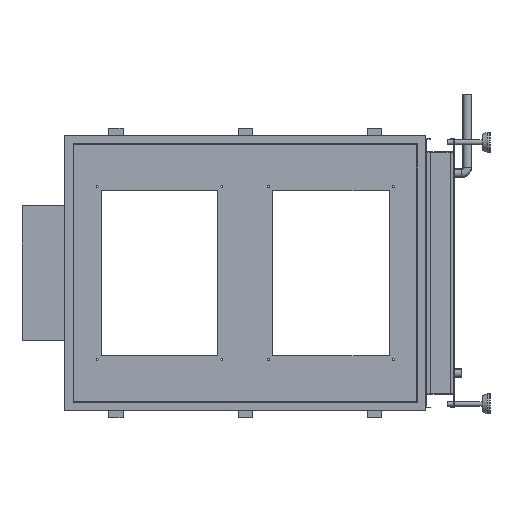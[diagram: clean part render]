
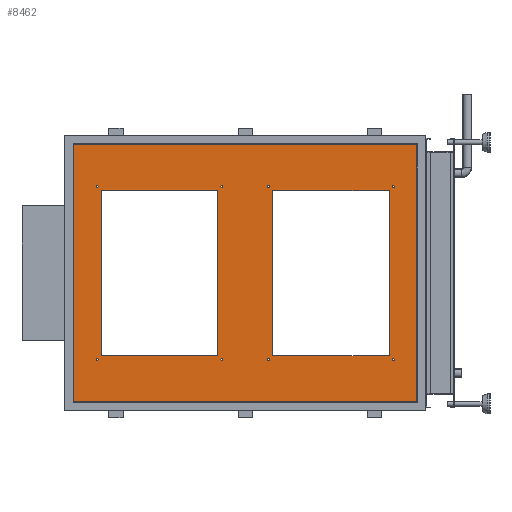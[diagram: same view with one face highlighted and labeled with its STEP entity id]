
A CAD part, left-side view. The second image highlights one B-rep face of the part: STEP entity #8462.
In plain terms, the highlighted planar face has unit normal (-1, 0, 0).
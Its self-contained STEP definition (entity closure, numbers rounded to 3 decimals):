
#151=FACE_BOUND('',#1491,.T.);
#152=FACE_BOUND('',#1492,.T.);
#153=FACE_BOUND('',#1493,.T.);
#154=FACE_BOUND('',#1494,.T.);
#155=FACE_BOUND('',#1495,.T.);
#156=FACE_BOUND('',#1496,.T.);
#157=FACE_BOUND('',#1497,.T.);
#158=FACE_BOUND('',#1498,.T.);
#159=FACE_BOUND('',#1499,.T.);
#160=FACE_BOUND('',#1500,.T.);
#404=PLANE('',#9285);
#923=FACE_OUTER_BOUND('',#1490,.T.);
#1490=EDGE_LOOP('',(#7381,#7382,#7383,#7384));
#1491=EDGE_LOOP('',(#7385));
#1492=EDGE_LOOP('',(#7386));
#1493=EDGE_LOOP('',(#7387));
#1494=EDGE_LOOP('',(#7388));
#1495=EDGE_LOOP('',(#7389));
#1496=EDGE_LOOP('',(#7390));
#1497=EDGE_LOOP('',(#7391));
#1498=EDGE_LOOP('',(#7392));
#1499=EDGE_LOOP('',(#7393,#7394,#7395,#7396));
#1500=EDGE_LOOP('',(#7397,#7398,#7399,#7400));
#2081=LINE('',#13354,#2971);
#2091=LINE('',#13374,#2981);
#2096=LINE('',#13383,#2986);
#2099=LINE('',#13388,#2989);
#2105=LINE('',#13402,#2995);
#2115=LINE('',#13422,#3005);
#2120=LINE('',#13431,#3010);
#2123=LINE('',#13436,#3013);
#2256=LINE('',#13699,#3146);
#2257=LINE('',#13701,#3147);
#2258=LINE('',#13703,#3148);
#2259=LINE('',#13704,#3149);
#2971=VECTOR('',#10988,10.);
#2981=VECTOR('',#11004,10.);
#2986=VECTOR('',#11013,10.);
#2989=VECTOR('',#11018,10.);
#2995=VECTOR('',#11028,10.);
#3005=VECTOR('',#11044,10.);
#3010=VECTOR('',#11053,10.);
#3013=VECTOR('',#11058,10.);
#3146=VECTOR('',#11287,10.);
#3147=VECTOR('',#11288,10.);
#3148=VECTOR('',#11289,10.);
#3149=VECTOR('',#11290,10.);
#3492=CIRCLE('',#8736,3.324);
#3497=CIRCLE('',#8743,3.324);
#3502=CIRCLE('',#8750,3.324);
#3507=CIRCLE('',#8757,3.324);
#3512=CIRCLE('',#8764,3.324);
#3517=CIRCLE('',#8771,3.324);
#3522=CIRCLE('',#8778,3.324);
#3527=CIRCLE('',#8785,3.324);
#3780=VERTEX_POINT('',#12035);
#3785=VERTEX_POINT('',#12049);
#3790=VERTEX_POINT('',#12063);
#3795=VERTEX_POINT('',#12077);
#3800=VERTEX_POINT('',#12091);
#3805=VERTEX_POINT('',#12105);
#3810=VERTEX_POINT('',#12119);
#3815=VERTEX_POINT('',#12133);
#4213=VERTEX_POINT('',#13352);
#4214=VERTEX_POINT('',#13353);
#4221=VERTEX_POINT('',#13373);
#4223=VERTEX_POINT('',#13382);
#4229=VERTEX_POINT('',#13400);
#4230=VERTEX_POINT('',#13401);
#4237=VERTEX_POINT('',#13421);
#4239=VERTEX_POINT('',#13430);
#4321=VERTEX_POINT('',#13697);
#4322=VERTEX_POINT('',#13698);
#4323=VERTEX_POINT('',#13700);
#4324=VERTEX_POINT('',#13702);
#4591=EDGE_CURVE('',#3780,#3780,#3492,.T.);
#4598=EDGE_CURVE('',#3785,#3785,#3497,.T.);
#4605=EDGE_CURVE('',#3790,#3790,#3502,.T.);
#4612=EDGE_CURVE('',#3795,#3795,#3507,.T.);
#4619=EDGE_CURVE('',#3800,#3800,#3512,.T.);
#4626=EDGE_CURVE('',#3805,#3805,#3517,.T.);
#4633=EDGE_CURVE('',#3810,#3810,#3522,.T.);
#4640=EDGE_CURVE('',#3815,#3815,#3527,.T.);
#5226=EDGE_CURVE('',#4213,#4214,#2081,.T.);
#5236=EDGE_CURVE('',#4214,#4221,#2091,.T.);
#5241=EDGE_CURVE('',#4221,#4223,#2096,.T.);
#5244=EDGE_CURVE('',#4223,#4213,#2099,.T.);
#5250=EDGE_CURVE('',#4229,#4230,#2105,.T.);
#5260=EDGE_CURVE('',#4230,#4237,#2115,.T.);
#5265=EDGE_CURVE('',#4237,#4239,#2120,.T.);
#5268=EDGE_CURVE('',#4239,#4229,#2123,.T.);
#5401=EDGE_CURVE('',#4321,#4322,#2256,.T.);
#5402=EDGE_CURVE('',#4323,#4321,#2257,.T.);
#5403=EDGE_CURVE('',#4324,#4323,#2258,.T.);
#5404=EDGE_CURVE('',#4322,#4324,#2259,.T.);
#7381=ORIENTED_EDGE('',*,*,#5401,.F.);
#7382=ORIENTED_EDGE('',*,*,#5402,.F.);
#7383=ORIENTED_EDGE('',*,*,#5403,.F.);
#7384=ORIENTED_EDGE('',*,*,#5404,.F.);
#7385=ORIENTED_EDGE('',*,*,#4591,.T.);
#7386=ORIENTED_EDGE('',*,*,#4598,.T.);
#7387=ORIENTED_EDGE('',*,*,#4605,.T.);
#7388=ORIENTED_EDGE('',*,*,#4612,.T.);
#7389=ORIENTED_EDGE('',*,*,#4619,.T.);
#7390=ORIENTED_EDGE('',*,*,#4626,.T.);
#7391=ORIENTED_EDGE('',*,*,#4633,.T.);
#7392=ORIENTED_EDGE('',*,*,#4640,.T.);
#7393=ORIENTED_EDGE('',*,*,#5241,.T.);
#7394=ORIENTED_EDGE('',*,*,#5244,.T.);
#7395=ORIENTED_EDGE('',*,*,#5226,.T.);
#7396=ORIENTED_EDGE('',*,*,#5236,.T.);
#7397=ORIENTED_EDGE('',*,*,#5265,.T.);
#7398=ORIENTED_EDGE('',*,*,#5268,.T.);
#7399=ORIENTED_EDGE('',*,*,#5250,.T.);
#7400=ORIENTED_EDGE('',*,*,#5260,.T.);
#8462=ADVANCED_FACE('',(#923,#151,#152,#153,#154,#155,#156,#157,#158,#159,
#160),#404,.T.);
#8736=AXIS2_PLACEMENT_3D('',#12037,#9617,#9618);
#8743=AXIS2_PLACEMENT_3D('',#12051,#9633,#9634);
#8750=AXIS2_PLACEMENT_3D('',#12065,#9649,#9650);
#8757=AXIS2_PLACEMENT_3D('',#12079,#9665,#9666);
#8764=AXIS2_PLACEMENT_3D('',#12093,#9681,#9682);
#8771=AXIS2_PLACEMENT_3D('',#12107,#9697,#9698);
#8778=AXIS2_PLACEMENT_3D('',#12121,#9713,#9714);
#8785=AXIS2_PLACEMENT_3D('',#12135,#9729,#9730);
#9285=AXIS2_PLACEMENT_3D('',#13696,#11285,#11286);
#9617=DIRECTION('center_axis',(1.,0.,0.));
#9618=DIRECTION('ref_axis',(0.,0.,-1.));
#9633=DIRECTION('center_axis',(1.,0.,0.));
#9634=DIRECTION('ref_axis',(0.,0.,-1.));
#9649=DIRECTION('center_axis',(1.,0.,0.));
#9650=DIRECTION('ref_axis',(0.,0.,-1.));
#9665=DIRECTION('center_axis',(1.,0.,0.));
#9666=DIRECTION('ref_axis',(0.,0.,-1.));
#9681=DIRECTION('center_axis',(1.,0.,0.));
#9682=DIRECTION('ref_axis',(0.,0.,-1.));
#9697=DIRECTION('center_axis',(1.,0.,0.));
#9698=DIRECTION('ref_axis',(0.,0.,-1.));
#9713=DIRECTION('center_axis',(1.,0.,0.));
#9714=DIRECTION('ref_axis',(0.,0.,-1.));
#9729=DIRECTION('center_axis',(1.,0.,0.));
#9730=DIRECTION('ref_axis',(0.,0.,-1.));
#10988=DIRECTION('',(0.,0.,1.));
#11004=DIRECTION('',(0.,-1.,0.));
#11013=DIRECTION('',(0.,0.,-1.));
#11018=DIRECTION('',(0.,1.,0.));
#11028=DIRECTION('',(0.,1.,0.));
#11044=DIRECTION('',(0.,0.,1.));
#11053=DIRECTION('',(0.,-1.,0.));
#11058=DIRECTION('',(0.,0.,-1.));
#11285=DIRECTION('center_axis',(-1.,0.,0.));
#11286=DIRECTION('ref_axis',(0.,0.,
1.));
#11287=DIRECTION('',(0.,-1.,0.));
#11288=DIRECTION('',(0.,0.,1.));
#11289=DIRECTION('',(0.,1.,0.));
#11290=DIRECTION('',(0.,0.,-1.));
#12035=CARTESIAN_POINT('',(-1485.,520.5,307.324));
#12037=CARTESIAN_POINT('Origin',(-1485.,520.5,304.));
#12049=CARTESIAN_POINT('',(-1485.,82.5,-300.676));
#12051=CARTESIAN_POINT('Origin',(-1485.,82.5,-304.));
#12063=CARTESIAN_POINT('',(-1485.,-81.5,-300.677));
#12065=CARTESIAN_POINT('Origin',(-1485.,-81.5,-304.));
#12077=CARTESIAN_POINT('',(-1485.,-519.5,307.324));
#12079=CARTESIAN_POINT('Origin',(-1485.,-519.5,304.));
#12091=CARTESIAN_POINT('',(-1485.,-81.5,307.324));
#12093=CARTESIAN_POINT('Origin',(-1485.,-81.5,304.));
#12105=CARTESIAN_POINT('',(-1485.,-519.5,-300.677));
#12107=CARTESIAN_POINT('Origin',(-1485.,-519.5,-304.));
#12119=CARTESIAN_POINT('',(-1485.,520.5,-300.676));
#12121=CARTESIAN_POINT('Origin',(-1485.,520.5,-304.));
#12133=CARTESIAN_POINT('',(-1485.,82.5,307.324));
#12135=CARTESIAN_POINT('Origin',(-1485.,82.5,304.));
#13352=CARTESIAN_POINT('',(-1485.,-95.5,-290.));
#13353=CARTESIAN_POINT('',(-1485.,-95.5,290.));
#13354=CARTESIAN_POINT('',(-1485.,-95.5,-145.));
#13373=CARTESIAN_POINT('',(-1485.,-505.5,290.));
#13374=CARTESIAN_POINT('',(-1485.,-365.,290.));
#13382=CARTESIAN_POINT('',(-1485.,-505.5,-290.));
#13383=CARTESIAN_POINT('',(-1485.,-505.5,145.));
#13388=CARTESIAN_POINT('',(-1485.,-467.5,-290.));
#13400=CARTESIAN_POINT('',(-1485.,96.5,-290.));
#13401=CARTESIAN_POINT('',(-1485.,506.5,-290.));
#13402=CARTESIAN_POINT('',(-1485.,-269.,-290.));
#13421=CARTESIAN_POINT('',(-1485.,506.5,290.));
#13422=CARTESIAN_POINT('',(-1485.,506.5,-145.));
#13430=CARTESIAN_POINT('',(-1485.,96.5,290.));
#13431=CARTESIAN_POINT('',(-1485.,-64.,290.));
#13436=CARTESIAN_POINT('',(-1485.,96.5,145.));
#13696=CARTESIAN_POINT('Origin',(-1485.,-634.5,0.));
#13697=CARTESIAN_POINT('',(-1485.,604.5,453.5));
#13698=CARTESIAN_POINT('',(-1485.,-604.5,453.5));
#13699=CARTESIAN_POINT('',(-1485.,-619.5,453.5));
#13700=CARTESIAN_POINT('',(-1485.,604.5,-453.5));
#13701=CARTESIAN_POINT('',(-1485.,604.5,226.75));
#13702=CARTESIAN_POINT('',(-1485.,-604.5,-453.5));
#13703=CARTESIAN_POINT('',(-1485.,-15.,-453.5));
#13704=CARTESIAN_POINT('',(-1485.,-604.5,-226.75));
